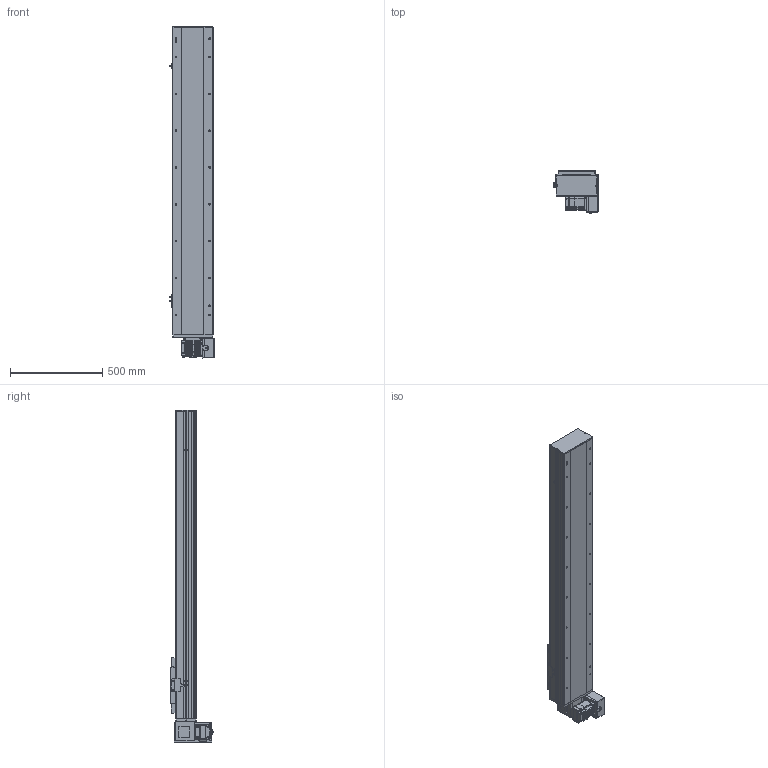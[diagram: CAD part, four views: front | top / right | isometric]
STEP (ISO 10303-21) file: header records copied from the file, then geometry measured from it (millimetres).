
FILE_DESCRIPTION (( 'STEP AP214' ), '1' );
FILE_NAME ('TPE22-L40-1250-LD-T75-C4.STEP', '2023-04-12T08:53:49', ( '' ), ( '' ), 'SwSTEP 2.0', 'SolidWorks 2020', '' );
FILE_SCHEMA (( 'AUTOMOTIVE_DESIGN' ));
Length unit declared in the file: millimetre
Products named in the file (10): 葩璃 pm-t65-672^TPE22-L40-LD-T75-C4; 葩璃 TPE22 賑雄殤^TPE22-L40-LD-T75-C4; 葩璃 MSMD08PC_P75^TPE22-L40-LD-T75-C4; 葩璃 TPE22-L-002 耜裔ZTMZ-220-04^TPE22-L40-LD-T75-C4; hexagon head bolts-full thread gb_GB_FASTENER_BOLT_STBAB A M5X16-N; 葩璃 TPT22-L-009 萇儂啣^TPE22-L40-LD-T75-C4; 葩璃 TPE22-L-007 々湍釱^TPE22-L40-LD-T75-C4; 葩璃 詩湍150^TPE22-L40-LD-T75-C4; 葩璃 TPE22-L-001 菁釱MZ-220-01^TPE22-L40-LD-T75-C4; TPE22-L40-1250-LD-T75-C4
Assembly tree (12 placements, depth 2):
  TPE22-L40-1250-LD-T75-C4
    葩璃 TPE22-L-001 菁釱MZ-220-01^TPE22-L40-LD-T75-C4
    葩璃 TPE22-L-002 耜裔ZTMZ-220-04^TPE22-L40-LD-T75-C4  x2
    葩璃 詩湍150^TPE22-L40-LD-T75-C4
    葩璃 TPE22-L-007 々湍釱^TPE22-L40-LD-T75-C4
    葩璃 TPT22-L-009 萇儂啣^TPE22-L40-LD-T75-C4
    葩璃 TPE22 賑雄殤^TPE22-L40-LD-T75-C4
    葩璃 pm-t65-672^TPE22-L40-LD-T75-C4  x3
    葩璃 MSMD08PC_P75^TPE22-L40-LD-T75-C4
    hexagon head bolts-full thread gb_GB_FASTENER_BOLT_STBAB A M5X16-N
Bounding box: 239.2 x 229.65 x 1802 mm (x, y, z)
Volume: 20311513.2 mm3; surface area: 3025690 mm2
Topology: 22 solids, 22 shells, 1757 faces, 4619 edges, 2945 vertices
Faces by surface type: plane 1039, cylinder 576, cone 112, bspline 30
Entity records: 49658 total; most frequent: CARTESIAN_POINT 10271, DIRECTION 7810, ORIENTED_EDGE 7718, EDGE_CURVE 3859, VECTOR 2632, LINE 2632, AXIS2_PLACEMENT_3D 2589, VERTEX_POINT 2489
